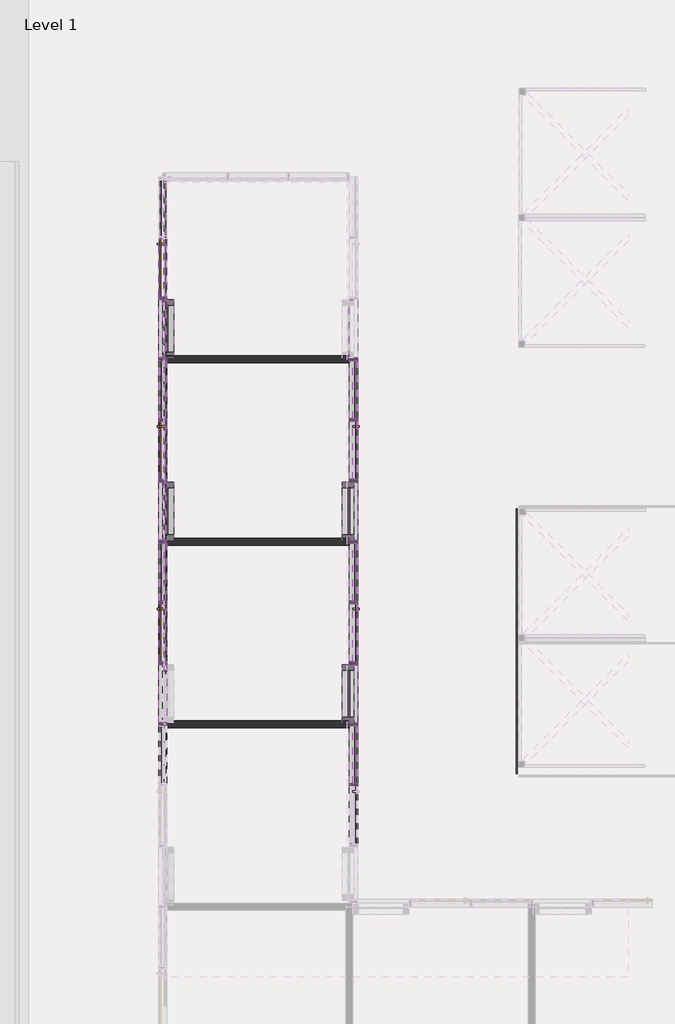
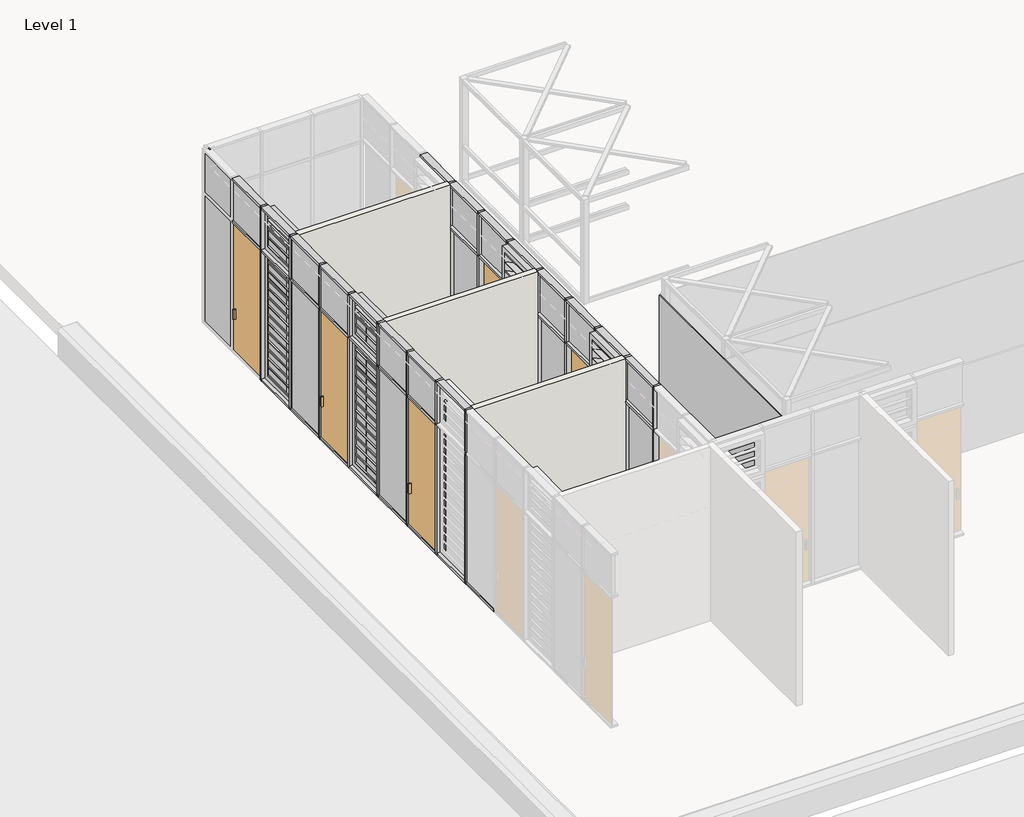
# One storey, part 3 of 32: 79 members, 38 plates, 5 doors, 3 walls.
"""IFC4 building model written with IfcOpenShell, lengths in millimetres."""

from ifc_helpers import new_model, si_unit, frame, origin, place, context, project, spatial, polyline, outline, extrude, transform, mapped, element, save
from components import curtain_wall_door_single_glass_nz_curtain_wall_door_single_2bf20aac, curtain_wall_door_single_glass_nz_curtain_wall_door_single_ff8afd41, rectangular_mullion_50x150mm_c4504768, rectangular_mullion_50x150mm_6c7cb899, rectangular_mullion_50x150mm_b0af8bb0, rectangular_mullion_50x150mm_bbc1c4ea, rectangular_mullion_50x150mm_1a36453b, rectangular_mullion_50x150mm_0d540e17, rectangular_mullion_50x150mm_108cdc6f, curtain_wall_panel_louver_20805_curtain_wall_panel_louver_4af505d4, curtain_wall_panel_louver_20805_curtain_wall_panel_louver_14332c5b, curtain_wall_panel_glass_louver_20805_curtain_wall_panel_036772b2, curtain_wall_panel_glass_louver_20805_curtain_wall_panel_0f8e40a1, system_panel_glazed_c6855d5e, system_panel_glazed_a80c9663, system_panel_glazed_3e853062, system_panel_glazed_a5e8ce8b, system_panel_glazed_53fe5bbb, system_panel_glazed_bed50b64, system_panel_glazed_8b446c0b, system_panel_glazed_822149c0, system_panel_solid_585523e5, system_panel_solid_10c0fb46, system_panel_solid_2b2d5e45

model = new_model("IFC4")

# Units and contexts
model_context = context("Model", 3, world=origin())
ifc_project = project(units=[si_unit("LENGTHUNIT", "METRE", prefix="MILLI")], contexts=[model_context])

# Site, building, storey
site = spatial("IfcSite", under=ifc_project)
building = spatial("IfcBuilding", under=site)
storey = spatial("IfcBuildingStorey", under=building, Name="Level 1", Elevation=2800.0)

# Doors
placement = place(None, origin())
curtain_wall_door_single_glass_nz_curtain_wall_door_single_shape = curtain_wall_door_single_glass_nz_curtain_wall_door_single_2bf20aac(model_context)
element("IfcDoor", 1, ObjectType="Curtain Wall Door-Single-Glass (NZ) : Curtain Wall Door-Single-Glass (NZ)", at=placement, inside=storey, context=model_context, shape_type="MappedRepresentation", body=[
    mapped(curtain_wall_door_single_glass_nz_curtain_wall_door_single_shape, transform((-83784.8408447, -25055.9199597, 2850.0), x_axis=(0.0, -1.0, 0.0), y_axis=(1.0, 0.0, 0.0), z_axis=(0.0, 0.0, 1.0))),
])
element("IfcDoor", 2, ObjectType="Curtain Wall Door-Single-Glass (NZ) : Curtain Wall Door-Single-Glass (NZ)", at=placement, inside=storey, context=model_context, shape_type="MappedRepresentation", body=[
    mapped(curtain_wall_door_single_glass_nz_curtain_wall_door_single_shape, transform((-83784.8408447, -21755.9199596, 2850.0), x_axis=(0.0, -1.0, 0.0), y_axis=(1.0, 0.0, 0.0), z_axis=(0.0, 0.0, 1.0))),
])
curtain_wall_door_single_glass_nz_curtain_wall_door_single_2_shape = curtain_wall_door_single_glass_nz_curtain_wall_door_single_ff8afd41(model_context)
element("IfcDoor", 3, ObjectType="Curtain Wall Door-Single-Glass (NZ) : Curtain Wall Door-Single-Glass (NZ)", at=placement, inside=storey, context=model_context, shape_type="MappedRepresentation", body=[
    mapped(curtain_wall_door_single_glass_nz_curtain_wall_door_single_2_shape, transform((-87234.8408447, -25055.9199597, 2850.0), x_axis=(0.0, -1.0, 0.0), y_axis=(1.0, 0.0, 0.0), z_axis=(0.0, 0.0, 1.0))),
])
element("IfcDoor", 4, ObjectType="Curtain Wall Door-Single-Glass (NZ) : Curtain Wall Door-Single-Glass (NZ)", at=placement, inside=storey, context=model_context, shape_type="MappedRepresentation", body=[
    mapped(curtain_wall_door_single_glass_nz_curtain_wall_door_single_2_shape, transform((-87234.8408447, -21755.9199596, 2850.0), x_axis=(0.0, -1.0, 0.0), y_axis=(1.0, 0.0, 0.0), z_axis=(0.0, 0.0, 1.0))),
])
element("IfcDoor", 5, ObjectType="Curtain Wall Door-Single-Glass (NZ) : Curtain Wall Door-Single-Glass (NZ)", at=placement, inside=storey, context=model_context, shape_type="MappedRepresentation", body=[
    mapped(curtain_wall_door_single_glass_nz_curtain_wall_door_single_2_shape, transform((-87234.8408447, -18455.9199596, 2850.0), x_axis=(0.0, -1.0, 0.0), y_axis=(1.0, 0.0, 0.0), z_axis=(0.0, 0.0, 1.0))),
])

# Members
rectangular_mullion_50x150mm_shape = rectangular_mullion_50x150mm_c4504768(model_context)
element("IfcMember", 6, ObjectType="Rectangular Mullion : 50x150mm", at=placement, inside=storey, context=model_context, shape_type="MappedRepresentation", body=[
    mapped(rectangular_mullion_50x150mm_shape, transform((-83784.8408447, -24480.9199597, 5800.0), x_axis=(0.0, 0.0, 1.0), y_axis=(-1.0, 0.0, 0.0), z_axis=(0.0, -1.0, 0.0))),
])
element("IfcMember", 7, ObjectType="Rectangular Mullion : 50x150mm", at=placement, inside=storey, context=model_context, shape_type="MappedRepresentation", body=[
    mapped(rectangular_mullion_50x150mm_shape, transform((-83784.8408447, -27780.9199596, 5800.0), x_axis=(0.0, 0.0, 1.0), y_axis=(-1.0, 0.0, 0.0), z_axis=(0.0, -1.0, 0.0))),
])
element("IfcMember", 8, ObjectType="Rectangular Mullion : 50x150mm", at=placement, inside=storey, context=model_context, shape_type="MappedRepresentation", body=[
    mapped(rectangular_mullion_50x150mm_shape, transform((-83784.8408447, -26680.9199596, 5800.0), x_axis=(0.0, 0.0, 1.0), y_axis=(-1.0, 0.0, 0.0), z_axis=(0.0, -1.0, 0.0))),
])
element("IfcMember", 9, ObjectType="Rectangular Mullion : 50x150mm", at=placement, inside=storey, context=model_context, shape_type="MappedRepresentation", body=[
    mapped(rectangular_mullion_50x150mm_shape, transform((-83784.8408447, -25580.9199596, 5800.0), x_axis=(0.0, 0.0, 1.0), y_axis=(-1.0, 0.0, 0.0), z_axis=(0.0, -1.0, 0.0))),
])
element("IfcMember", 10, ObjectType="Rectangular Mullion : 50x150mm", at=placement, inside=storey, context=model_context, shape_type="MappedRepresentation", body=[
    mapped(rectangular_mullion_50x150mm_shape, transform((-83784.8408447, -23380.9199596, 5800.0), x_axis=(0.0, 0.0, 1.0), y_axis=(-1.0, 0.0, 0.0), z_axis=(0.0, -1.0, 0.0))),
])
element("IfcMember", 11, ObjectType="Rectangular Mullion : 50x150mm", at=placement, inside=storey, context=model_context, shape_type="MappedRepresentation", body=[
    mapped(rectangular_mullion_50x150mm_shape, transform((-83784.8408447, -22280.9199596, 5800.0), x_axis=(0.0, 0.0, 1.0), y_axis=(-1.0, 0.0, 0.0), z_axis=(0.0, -1.0, 0.0))),
])
element("IfcMember", 12, ObjectType="Rectangular Mullion : 50x150mm", at=placement, inside=storey, context=model_context, shape_type="MappedRepresentation", body=[
    mapped(rectangular_mullion_50x150mm_shape, transform((-83784.8408447, -20080.9199596, 5800.0), x_axis=(0.0, 0.0, 1.0), y_axis=(-1.0, 0.0, 0.0), z_axis=(0.0, -1.0, 0.0))),
])
element("IfcMember", 13, ObjectType="Rectangular Mullion : 50x150mm", at=placement, inside=storey, context=model_context, shape_type="MappedRepresentation", body=[
    mapped(rectangular_mullion_50x150mm_shape, transform((-83784.8408447, -21180.9199596, 5800.0), x_axis=(0.0, 0.0, 1.0), y_axis=(-1.0, 0.0, 0.0), z_axis=(0.0, -1.0, 0.0))),
])
rectangular_mullion_50x150mm_2_shape = rectangular_mullion_50x150mm_6c7cb899(model_context)
element("IfcMember", 14, ObjectType="Rectangular Mullion : 50x150mm", at=placement, inside=storey, context=model_context, shape_type="MappedRepresentation", body=[
    mapped(rectangular_mullion_50x150mm_2_shape, transform((-83784.8408447, -24505.9199597, 2800.0), x_axis=(0.0, -1.0, 0.0), y_axis=(-1.0, 0.0, 0.0), z_axis=(0.0, 0.0, -1.0))),
])
element("IfcMember", 15, ObjectType="Rectangular Mullion : 50x150mm", at=placement, inside=storey, context=model_context, shape_type="MappedRepresentation", body=[
    mapped(rectangular_mullion_50x150mm_2_shape, transform((-83784.8408447, -25605.9199596, 2800.0), x_axis=(0.0, -1.0, 0.0), y_axis=(-1.0, 0.0, 0.0), z_axis=(0.0, 0.0, -1.0))),
])
element("IfcMember", 16, ObjectType="Rectangular Mullion : 50x150mm", at=placement, inside=storey, context=model_context, shape_type="MappedRepresentation", body=[
    mapped(rectangular_mullion_50x150mm_2_shape, transform((-83784.8408447, -23405.9199596, 2800.0), x_axis=(0.0, -1.0, 0.0), y_axis=(-1.0, 0.0, 0.0), z_axis=(0.0, 0.0, -1.0))),
])
element("IfcMember", 17, ObjectType="Rectangular Mullion : 50x150mm", at=placement, inside=storey, context=model_context, shape_type="MappedRepresentation", body=[
    mapped(rectangular_mullion_50x150mm_2_shape, transform((-83784.8408447, -26705.9199596, 2800.0), x_axis=(0.0, -1.0, 0.0), y_axis=(-1.0, 0.0, 0.0), z_axis=(0.0, 0.0, -1.0))),
])
element("IfcMember", 18, ObjectType="Rectangular Mullion : 50x150mm", at=placement, inside=storey, context=model_context, shape_type="MappedRepresentation", body=[
    mapped(rectangular_mullion_50x150mm_2_shape, transform((-83784.8408447, -22305.9199596, 2800.0), x_axis=(0.0, -1.0, 0.0), y_axis=(-1.0, 0.0, 0.0), z_axis=(0.0, 0.0, -1.0))),
])
element("IfcMember", 19, ObjectType="Rectangular Mullion : 50x150mm", at=placement, inside=storey, context=model_context, shape_type="MappedRepresentation", body=[
    mapped(rectangular_mullion_50x150mm_2_shape, transform((-83784.8408447, -21205.9199596, 2800.0), x_axis=(0.0, -1.0, 0.0), y_axis=(-1.0, 0.0, 0.0), z_axis=(0.0, 0.0, -1.0))),
])
element("IfcMember", 20, ObjectType="Rectangular Mullion : 50x150mm", at=placement, inside=storey, context=model_context, shape_type="MappedRepresentation", body=[
    mapped(rectangular_mullion_50x150mm_2_shape, transform((-83784.8408447, -20105.9199596, 2800.0), x_axis=(0.0, -1.0, 0.0), y_axis=(-1.0, 0.0, 0.0), z_axis=(0.0, 0.0, -1.0))),
])
element("IfcMember", 21, ObjectType="Rectangular Mullion : 50x150mm", at=placement, inside=storey, context=model_context, shape_type="MappedRepresentation", body=[
    mapped(rectangular_mullion_50x150mm_2_shape, transform((-83784.8408447, -27805.9199596, 2800.0), x_axis=(0.0, -1.0, 0.0), y_axis=(-1.0, 0.0, 0.0), z_axis=(0.0, 0.0, -1.0))),
])
rectangular_mullion_50x150mm_3_shape = rectangular_mullion_50x150mm_b0af8bb0(model_context)
element("IfcMember", 22, ObjectType="Rectangular Mullion : 50x150mm", at=placement, inside=storey, context=model_context, shape_type="MappedRepresentation", body=[
    mapped(rectangular_mullion_50x150mm_3_shape, transform((-83784.8408447, -23430.9199596, 2800.0), x_axis=(0.0, 0.0, -1.0), y_axis=(-1.0, 0.0, 0.0), z_axis=(0.0, 1.0, 0.0))),
])
element("IfcMember", 23, ObjectType="Rectangular Mullion : 50x150mm", at=placement, inside=storey, context=model_context, shape_type="MappedRepresentation", body=[
    mapped(rectangular_mullion_50x150mm_3_shape, transform((-83784.8408447, -26730.9199596, 2800.0), x_axis=(0.0, 0.0, -1.0), y_axis=(-1.0, 0.0, 0.0), z_axis=(0.0, 1.0, 0.0))),
])
element("IfcMember", 24, ObjectType="Rectangular Mullion : 50x150mm", at=placement, inside=storey, context=model_context, shape_type="MappedRepresentation", body=[
    mapped(rectangular_mullion_50x150mm_3_shape, transform((-83784.8408447, -25630.9199596, 2800.0), x_axis=(0.0, 0.0, -1.0), y_axis=(-1.0, 0.0, 0.0), z_axis=(0.0, 1.0, 0.0))),
])
element("IfcMember", 25, ObjectType="Rectangular Mullion : 50x150mm", at=placement, inside=storey, context=model_context, shape_type="MappedRepresentation", body=[
    mapped(rectangular_mullion_50x150mm_3_shape, transform((-83784.8408447, -24530.9199597, 2800.0), x_axis=(0.0, 0.0, -1.0), y_axis=(-1.0, 0.0, 0.0), z_axis=(0.0, 1.0, 0.0))),
])
element("IfcMember", 26, ObjectType="Rectangular Mullion : 50x150mm", at=placement, inside=storey, context=model_context, shape_type="MappedRepresentation", body=[
    mapped(rectangular_mullion_50x150mm_3_shape, transform((-83784.8408447, -22330.9199596, 2800.0), x_axis=(0.0, 0.0, -1.0), y_axis=(-1.0, 0.0, 0.0), z_axis=(0.0, 1.0, 0.0))),
])
element("IfcMember", 27, ObjectType="Rectangular Mullion : 50x150mm", at=placement, inside=storey, context=model_context, shape_type="MappedRepresentation", body=[
    mapped(rectangular_mullion_50x150mm_3_shape, transform((-83784.8408447, -21230.9199596, 2800.0), x_axis=(0.0, 0.0, -1.0), y_axis=(-1.0, 0.0, 0.0), z_axis=(0.0, 1.0, 0.0))),
])
element("IfcMember", 28, ObjectType="Rectangular Mullion : 50x150mm", at=placement, inside=storey, context=model_context, shape_type="MappedRepresentation", body=[
    mapped(rectangular_mullion_50x150mm_3_shape, transform((-83784.8408447, -20130.9199596, 2800.0), x_axis=(0.0, 0.0, -1.0), y_axis=(-1.0, 0.0, 0.0), z_axis=(0.0, 1.0, 0.0))),
])
element("IfcMember", 29, ObjectType="Rectangular Mullion : 50x150mm", at=placement, inside=storey, context=model_context, shape_type="MappedRepresentation", body=[
    mapped(rectangular_mullion_50x150mm_3_shape, transform((-83784.8408447, -27830.9199596, 2800.0), x_axis=(0.0, 0.0, -1.0), y_axis=(-1.0, 0.0, 0.0), z_axis=(0.0, 1.0, 0.0))),
])
rectangular_mullion_50x150mm_4_shape = rectangular_mullion_50x150mm_bbc1c4ea(model_context)
element("IfcMember", 30, ObjectType="Rectangular Mullion : 50x150mm", at=placement, inside=storey, context=model_context, shape_type="MappedRepresentation", body=[
    mapped(rectangular_mullion_50x150mm_4_shape, transform((-83784.8408447, -24505.9199597, 5800.0), x_axis=(0.0, -1.0, 0.0), y_axis=(-1.0, 0.0, 0.0), z_axis=(0.0, 0.0, -1.0))),
])
element("IfcMember", 31, ObjectType="Rectangular Mullion : 50x150mm", at=placement, inside=storey, context=model_context, shape_type="MappedRepresentation", body=[
    mapped(rectangular_mullion_50x150mm_4_shape, transform((-83784.8408447, -25605.9199596, 5800.0), x_axis=(0.0, -1.0, 0.0), y_axis=(-1.0, 0.0, 0.0), z_axis=(0.0, 0.0, -1.0))),
])
element("IfcMember", 32, ObjectType="Rectangular Mullion : 50x150mm", at=placement, inside=storey, context=model_context, shape_type="MappedRepresentation", body=[
    mapped(rectangular_mullion_50x150mm_4_shape, transform((-83784.8408447, -23405.9199596, 5800.0), x_axis=(0.0, -1.0, 0.0), y_axis=(-1.0, 0.0, 0.0), z_axis=(0.0, 0.0, -1.0))),
])
element("IfcMember", 33, ObjectType="Rectangular Mullion : 50x150mm", at=placement, inside=storey, context=model_context, shape_type="MappedRepresentation", body=[
    mapped(rectangular_mullion_50x150mm_4_shape, transform((-83784.8408447, -26705.9199596, 5800.0), x_axis=(0.0, -1.0, 0.0), y_axis=(-1.0, 0.0, 0.0), z_axis=(0.0, 0.0, -1.0))),
])
element("IfcMember", 34, ObjectType="Rectangular Mullion : 50x150mm", at=placement, inside=storey, context=model_context, shape_type="MappedRepresentation", body=[
    mapped(rectangular_mullion_50x150mm_4_shape, transform((-83784.8408447, -22305.9199596, 5800.0), x_axis=(0.0, -1.0, 0.0), y_axis=(-1.0, 0.0, 0.0), z_axis=(0.0, 0.0, -1.0))),
])
element("IfcMember", 35, ObjectType="Rectangular Mullion : 50x150mm", at=placement, inside=storey, context=model_context, shape_type="MappedRepresentation", body=[
    mapped(rectangular_mullion_50x150mm_4_shape, transform((-83784.8408447, -21205.9199596, 5800.0), x_axis=(0.0, -1.0, 0.0), y_axis=(-1.0, 0.0, 0.0), z_axis=(0.0, 0.0, -1.0))),
])
element("IfcMember", 36, ObjectType="Rectangular Mullion : 50x150mm", at=placement, inside=storey, context=model_context, shape_type="MappedRepresentation", body=[
    mapped(rectangular_mullion_50x150mm_4_shape, transform((-83784.8408447, -20105.9199596, 5800.0), x_axis=(0.0, -1.0, 0.0), y_axis=(-1.0, 0.0, 0.0), z_axis=(0.0, 0.0, -1.0))),
])
element("IfcMember", 37, ObjectType="Rectangular Mullion : 50x150mm", at=placement, inside=storey, context=model_context, shape_type="MappedRepresentation", body=[
    mapped(rectangular_mullion_50x150mm_4_shape, transform((-83784.8408447, -27805.9199596, 5800.0), x_axis=(0.0, -1.0, 0.0), y_axis=(-1.0, 0.0, 0.0), z_axis=(0.0, 0.0, -1.0))),
])
rectangular_mullion_50x150mm_5_shape = rectangular_mullion_50x150mm_1a36453b(model_context)
element("IfcMember", 38, ObjectType="Rectangular Mullion : 50x150mm", at=placement, inside=storey, context=model_context, shape_type="MappedRepresentation", body=[
    mapped(rectangular_mullion_50x150mm_5_shape, transform((-83784.8408447, -23380.9199596, 6800.0), x_axis=(0.0, 0.0, 1.0), y_axis=(-1.0, 0.0, 0.0), z_axis=(0.0, -1.0, 0.0))),
])
element("IfcMember", 39, ObjectType="Rectangular Mullion : 50x150mm", at=placement, inside=storey, context=model_context, shape_type="MappedRepresentation", body=[
    mapped(rectangular_mullion_50x150mm_5_shape, transform((-83784.8408447, -26680.9199596, 6800.0), x_axis=(0.0, 0.0, 1.0), y_axis=(-1.0, 0.0, 0.0), z_axis=(0.0, -1.0, 0.0))),
])
element("IfcMember", 40, ObjectType="Rectangular Mullion : 50x150mm", at=placement, inside=storey, context=model_context, shape_type="MappedRepresentation", body=[
    mapped(rectangular_mullion_50x150mm_5_shape, transform((-83784.8408447, -25580.9199596, 6800.0), x_axis=(0.0, 0.0, 1.0), y_axis=(-1.0, 0.0, 0.0), z_axis=(0.0, -1.0, 0.0))),
])
element("IfcMember", 41, ObjectType="Rectangular Mullion : 50x150mm", at=placement, inside=storey, context=model_context, shape_type="MappedRepresentation", body=[
    mapped(rectangular_mullion_50x150mm_5_shape, transform((-83784.8408447, -24480.9199597, 6800.0), x_axis=(0.0, 0.0, 1.0), y_axis=(-1.0, 0.0, 0.0), z_axis=(0.0, -1.0, 0.0))),
])
element("IfcMember", 42, ObjectType="Rectangular Mullion : 50x150mm", at=placement, inside=storey, context=model_context, shape_type="MappedRepresentation", body=[
    mapped(rectangular_mullion_50x150mm_5_shape, transform((-83784.8408447, -22280.9199596, 6800.0), x_axis=(0.0, 0.0, 1.0), y_axis=(-1.0, 0.0, 0.0), z_axis=(0.0, -1.0, 0.0))),
])
element("IfcMember", 43, ObjectType="Rectangular Mullion : 50x150mm", at=placement, inside=storey, context=model_context, shape_type="MappedRepresentation", body=[
    mapped(rectangular_mullion_50x150mm_5_shape, transform((-83784.8408447, -21180.9199596, 6800.0), x_axis=(0.0, 0.0, 1.0), y_axis=(-1.0, 0.0, 0.0), z_axis=(0.0, -1.0, 0.0))),
])
element("IfcMember", 44, ObjectType="Rectangular Mullion : 50x150mm", at=placement, inside=storey, context=model_context, shape_type="MappedRepresentation", body=[
    mapped(rectangular_mullion_50x150mm_5_shape, transform((-83784.8408447, -20080.9199596, 6800.0), x_axis=(0.0, 0.0, 1.0), y_axis=(-1.0, 0.0, 0.0), z_axis=(0.0, -1.0, 0.0))),
])
element("IfcMember", 45, ObjectType="Rectangular Mullion : 50x150mm", at=placement, inside=storey, context=model_context, shape_type="MappedRepresentation", body=[
    mapped(rectangular_mullion_50x150mm_5_shape, transform((-83784.8408447, -27780.9199596, 6800.0), x_axis=(0.0, 0.0, 1.0), y_axis=(-1.0, 0.0, 0.0), z_axis=(0.0, -1.0, 0.0))),
])
element("IfcMember", 46, ObjectType="Rectangular Mullion : 50x150mm", at=placement, inside=storey, context=model_context, shape_type="MappedRepresentation", body=[
    mapped(rectangular_mullion_50x150mm_4_shape, transform((-87234.8408447, -24505.9199597, 5800.0), x_axis=(0.0, -1.0, 0.0), y_axis=(-1.0, 0.0, 0.0), z_axis=(0.0, 0.0, -1.0))),
])
element("IfcMember", 47, ObjectType="Rectangular Mullion : 50x150mm", at=placement, inside=storey, context=model_context, shape_type="MappedRepresentation", body=[
    mapped(rectangular_mullion_50x150mm_4_shape, transform((-87234.8408447, -25605.9199596, 5800.0), x_axis=(0.0, -1.0, 0.0), y_axis=(-1.0, 0.0, 0.0), z_axis=(0.0, 0.0, -1.0))),
])
element("IfcMember", 48, ObjectType="Rectangular Mullion : 50x150mm", at=placement, inside=storey, context=model_context, shape_type="MappedRepresentation", body=[
    mapped(rectangular_mullion_50x150mm_4_shape, transform((-87234.8408447, -23405.9199596, 5800.0), x_axis=(0.0, -1.0, 0.0), y_axis=(-1.0, 0.0, 0.0), z_axis=(0.0, 0.0, -1.0))),
])
element("IfcMember", 49, ObjectType="Rectangular Mullion : 50x150mm", at=placement, inside=storey, context=model_context, shape_type="MappedRepresentation", body=[
    mapped(rectangular_mullion_50x150mm_4_shape, transform((-87234.8408447, -26705.9199596, 5800.0), x_axis=(0.0, -1.0, 0.0), y_axis=(-1.0, 0.0, 0.0), z_axis=(0.0, 0.0, -1.0))),
])
element("IfcMember", 50, ObjectType="Rectangular Mullion : 50x150mm", at=placement, inside=storey, context=model_context, shape_type="MappedRepresentation", body=[
    mapped(rectangular_mullion_50x150mm_4_shape, transform((-87234.8408447, -22305.9199596, 5800.0), x_axis=(0.0, -1.0, 0.0), y_axis=(-1.0, 0.0, 0.0), z_axis=(0.0, 0.0, -1.0))),
])
element("IfcMember", 51, ObjectType="Rectangular Mullion : 50x150mm", at=placement, inside=storey, context=model_context, shape_type="MappedRepresentation", body=[
    mapped(rectangular_mullion_50x150mm_4_shape, transform((-87234.8408447, -21205.9199596, 5800.0), x_axis=(0.0, -1.0, 0.0), y_axis=(-1.0, 0.0, 0.0), z_axis=(0.0, 0.0, -1.0))),
])
element("IfcMember", 52, ObjectType="Rectangular Mullion : 50x150mm", at=placement, inside=storey, context=model_context, shape_type="MappedRepresentation", body=[
    mapped(rectangular_mullion_50x150mm_4_shape, transform((-87234.8408447, -20105.9199596, 5800.0), x_axis=(0.0, -1.0, 0.0), y_axis=(-1.0, 0.0, 0.0), z_axis=(0.0, 0.0, -1.0))),
])
element("IfcMember", 53, ObjectType="Rectangular Mullion : 50x150mm", at=placement, inside=storey, context=model_context, shape_type="MappedRepresentation", body=[
    mapped(rectangular_mullion_50x150mm_4_shape, transform((-87234.8408447, -19005.9199596, 5800.0), x_axis=(0.0, -1.0, 0.0), y_axis=(-1.0, 0.0, 0.0), z_axis=(0.0, 0.0, -1.0))),
])
element("IfcMember", 54, ObjectType="Rectangular Mullion : 50x150mm", at=placement, inside=storey, context=model_context, shape_type="MappedRepresentation", body=[
    mapped(rectangular_mullion_50x150mm_2_shape, transform((-87234.8408447, -24505.9199597, 2800.0), x_axis=(0.0, -1.0, 0.0), y_axis=(-1.0, 0.0, 0.0), z_axis=(0.0, 0.0, -1.0))),
])
element("IfcMember", 55, ObjectType="Rectangular Mullion : 50x150mm", at=placement, inside=storey, context=model_context, shape_type="MappedRepresentation", body=[
    mapped(rectangular_mullion_50x150mm_2_shape, transform((-87234.8408447, -25605.9199596, 2800.0), x_axis=(0.0, -1.0, 0.0), y_axis=(-1.0, 0.0, 0.0), z_axis=(0.0, 0.0, -1.0))),
])
element("IfcMember", 56, ObjectType="Rectangular Mullion : 50x150mm", at=placement, inside=storey, context=model_context, shape_type="MappedRepresentation", body=[
    mapped(rectangular_mullion_50x150mm_2_shape, transform((-87234.8408447, -23405.9199596, 2800.0), x_axis=(0.0, -1.0, 0.0), y_axis=(-1.0, 0.0, 0.0), z_axis=(0.0, 0.0, -1.0))),
])
element("IfcMember", 57, ObjectType="Rectangular Mullion : 50x150mm", at=placement, inside=storey, context=model_context, shape_type="MappedRepresentation", body=[
    mapped(rectangular_mullion_50x150mm_2_shape, transform((-87234.8408447, -26705.9199596, 2800.0), x_axis=(0.0, -1.0, 0.0), y_axis=(-1.0, 0.0, 0.0), z_axis=(0.0, 0.0, -1.0))),
])
element("IfcMember", 58, ObjectType="Rectangular Mullion : 50x150mm", at=placement, inside=storey, context=model_context, shape_type="MappedRepresentation", body=[
    mapped(rectangular_mullion_50x150mm_2_shape, transform((-87234.8408447, -22305.9199596, 2800.0), x_axis=(0.0, -1.0, 0.0), y_axis=(-1.0, 0.0, 0.0), z_axis=(0.0, 0.0, -1.0))),
])
element("IfcMember", 59, ObjectType="Rectangular Mullion : 50x150mm", at=placement, inside=storey, context=model_context, shape_type="MappedRepresentation", body=[
    mapped(rectangular_mullion_50x150mm_2_shape, transform((-87234.8408447, -21205.9199596, 2800.0), x_axis=(0.0, -1.0, 0.0), y_axis=(-1.0, 0.0, 0.0), z_axis=(0.0, 0.0, -1.0))),
])
element("IfcMember", 60, ObjectType="Rectangular Mullion : 50x150mm", at=placement, inside=storey, context=model_context, shape_type="MappedRepresentation", body=[
    mapped(rectangular_mullion_50x150mm_2_shape, transform((-87234.8408447, -20105.9199596, 2800.0), x_axis=(0.0, -1.0, 0.0), y_axis=(-1.0, 0.0, 0.0), z_axis=(0.0, 0.0, -1.0))),
])
element("IfcMember", 61, ObjectType="Rectangular Mullion : 50x150mm", at=placement, inside=storey, context=model_context, shape_type="MappedRepresentation", body=[
    mapped(rectangular_mullion_50x150mm_2_shape, transform((-87234.8408447, -19005.9199596, 2800.0), x_axis=(0.0, -1.0, 0.0), y_axis=(-1.0, 0.0, 0.0), z_axis=(0.0, 0.0, -1.0))),
])
rectangular_mullion_50x150mm_6_shape = rectangular_mullion_50x150mm_0d540e17(model_context)
element("IfcMember", 62, ObjectType="Rectangular Mullion : 50x150mm", at=placement, inside=storey, context=model_context, shape_type="MappedRepresentation", body=[
    mapped(rectangular_mullion_50x150mm_6_shape, transform((-87234.8408447, -24480.9199597, 5800.0), x_axis=(0.0, 0.0, 1.0), y_axis=(-1.0, 0.0, 0.0), z_axis=(0.0, -1.0, 0.0))),
])
element("IfcMember", 63, ObjectType="Rectangular Mullion : 50x150mm", at=placement, inside=storey, context=model_context, shape_type="MappedRepresentation", body=[
    mapped(rectangular_mullion_50x150mm_6_shape, transform((-87234.8408447, -25580.9199596, 5800.0), x_axis=(0.0, 0.0, 1.0), y_axis=(-1.0, 0.0, 0.0), z_axis=(0.0, -1.0, 0.0))),
])
element("IfcMember", 64, ObjectType="Rectangular Mullion : 50x150mm", at=placement, inside=storey, context=model_context, shape_type="MappedRepresentation", body=[
    mapped(rectangular_mullion_50x150mm_6_shape, transform((-87234.8408447, -23380.9199596, 5800.0), x_axis=(0.0, 0.0, 1.0), y_axis=(-1.0, 0.0, 0.0), z_axis=(0.0, -1.0, 0.0))),
])
element("IfcMember", 65, ObjectType="Rectangular Mullion : 50x150mm", at=placement, inside=storey, context=model_context, shape_type="MappedRepresentation", body=[
    mapped(rectangular_mullion_50x150mm_6_shape, transform((-87234.8408447, -22280.9199596, 5800.0), x_axis=(0.0, 0.0, 1.0), y_axis=(-1.0, 0.0, 0.0), z_axis=(0.0, -1.0, 0.0))),
])
element("IfcMember", 66, ObjectType="Rectangular Mullion : 50x150mm", at=placement, inside=storey, context=model_context, shape_type="MappedRepresentation", body=[
    mapped(rectangular_mullion_50x150mm_6_shape, transform((-87234.8408447, -20080.9199596, 5800.0), x_axis=(0.0, 0.0, 1.0), y_axis=(-1.0, 0.0, 0.0), z_axis=(0.0, -1.0, 0.0))),
])
element("IfcMember", 67, ObjectType="Rectangular Mullion : 50x150mm", at=placement, inside=storey, context=model_context, shape_type="MappedRepresentation", body=[
    mapped(rectangular_mullion_50x150mm_6_shape, transform((-87234.8408447, -18980.9199596, 5800.0), x_axis=(0.0, 0.0, 1.0), y_axis=(-1.0, 0.0, 0.0), z_axis=(0.0, -1.0, 0.0))),
])
element("IfcMember", 68, ObjectType="Rectangular Mullion : 50x150mm", at=placement, inside=storey, context=model_context, shape_type="MappedRepresentation", body=[
    mapped(rectangular_mullion_50x150mm_6_shape, transform((-87234.8408447, -21180.9199596, 5800.0), x_axis=(0.0, 0.0, 1.0), y_axis=(-1.0, 0.0, 0.0), z_axis=(0.0, -1.0, 0.0))),
])
rectangular_mullion_50x150mm_7_shape = rectangular_mullion_50x150mm_108cdc6f(model_context)
element("IfcMember", 69, ObjectType="Rectangular Mullion : 50x150mm", at=placement, inside=storey, context=model_context, shape_type="MappedRepresentation", body=[
    mapped(rectangular_mullion_50x150mm_7_shape, transform((-87234.8408447, -23430.9199596, 2800.0), x_axis=(0.0, 0.0, -1.0), y_axis=(-1.0, 0.0, 0.0), z_axis=(0.0, 1.0, 0.0))),
])
element("IfcMember", 70, ObjectType="Rectangular Mullion : 50x150mm", at=placement, inside=storey, context=model_context, shape_type="MappedRepresentation", body=[
    mapped(rectangular_mullion_50x150mm_7_shape, transform((-87234.8408447, -26730.9199596, 2800.0), x_axis=(0.0, 0.0, -1.0), y_axis=(-1.0, 0.0, 0.0), z_axis=(0.0, 1.0, 0.0))),
])
element("IfcMember", 71, ObjectType="Rectangular Mullion : 50x150mm", at=placement, inside=storey, context=model_context, shape_type="MappedRepresentation", body=[
    mapped(rectangular_mullion_50x150mm_7_shape, transform((-87234.8408447, -25630.9199596, 2800.0), x_axis=(0.0, 0.0, -1.0), y_axis=(-1.0, 0.0, 0.0), z_axis=(0.0, 1.0, 0.0))),
])
element("IfcMember", 72, ObjectType="Rectangular Mullion : 50x150mm", at=placement, inside=storey, context=model_context, shape_type="MappedRepresentation", body=[
    mapped(rectangular_mullion_50x150mm_7_shape, transform((-87234.8408447, -24530.9199597, 2800.0), x_axis=(0.0, 0.0, -1.0), y_axis=(-1.0, 0.0, 0.0), z_axis=(0.0, 1.0, 0.0))),
])
element("IfcMember", 73, ObjectType="Rectangular Mullion : 50x150mm", at=placement, inside=storey, context=model_context, shape_type="MappedRepresentation", body=[
    mapped(rectangular_mullion_50x150mm_7_shape, transform((-87234.8408447, -22330.9199596, 2800.0), x_axis=(0.0, 0.0, -1.0), y_axis=(-1.0, 0.0, 0.0), z_axis=(0.0, 1.0, 0.0))),
])
element("IfcMember", 74, ObjectType="Rectangular Mullion : 50x150mm", at=placement, inside=storey, context=model_context, shape_type="MappedRepresentation", body=[
    mapped(rectangular_mullion_50x150mm_7_shape, transform((-87234.8408447, -21230.9199596, 2800.0), x_axis=(0.0, 0.0, -1.0), y_axis=(-1.0, 0.0, 0.0), z_axis=(0.0, 1.0, 0.0))),
])
element("IfcMember", 75, ObjectType="Rectangular Mullion : 50x150mm", at=placement, inside=storey, context=model_context, shape_type="MappedRepresentation", body=[
    mapped(rectangular_mullion_50x150mm_7_shape, transform((-87234.8408447, -19030.9199596, 2800.0), x_axis=(0.0, 0.0, -1.0), y_axis=(-1.0, 0.0, 0.0), z_axis=(0.0, 1.0, 0.0))),
])
element("IfcMember", 76, ObjectType="Rectangular Mullion : 50x150mm", at=placement, inside=storey, context=model_context, shape_type="MappedRepresentation", body=[
    mapped(rectangular_mullion_50x150mm_7_shape, transform((-87234.8408447, -20130.9199596, 2800.0), x_axis=(0.0, 0.0, -1.0), y_axis=(-1.0, 0.0, 0.0), z_axis=(0.0, 1.0, 0.0))),
])
element("IfcMember", 77, ObjectType="Rectangular Mullion : 50x150mm", at=placement, inside=storey, context=model_context, shape_type="MappedRepresentation", body=[
    mapped(rectangular_mullion_50x150mm_5_shape, transform((-87234.8408447, -23380.9199596, 6800.0), x_axis=(0.0, 0.0, 1.0), y_axis=(-1.0, 0.0, 0.0), z_axis=(0.0, -1.0, 0.0))),
])
element("IfcMember", 78, ObjectType="Rectangular Mullion : 50x150mm", at=placement, inside=storey, context=model_context, shape_type="MappedRepresentation", body=[
    mapped(rectangular_mullion_50x150mm_5_shape, transform((-87234.8408447, -26680.9199596, 6800.0), x_axis=(0.0, 0.0, 1.0), y_axis=(-1.0, 0.0, 0.0), z_axis=(0.0, -1.0, 0.0))),
])
element("IfcMember", 79, ObjectType="Rectangular Mullion : 50x150mm", at=placement, inside=storey, context=model_context, shape_type="MappedRepresentation", body=[
    mapped(rectangular_mullion_50x150mm_5_shape, transform((-87234.8408447, -25580.9199596, 6800.0), x_axis=(0.0, 0.0, 1.0), y_axis=(-1.0, 0.0, 0.0), z_axis=(0.0, -1.0, 0.0))),
])
element("IfcMember", 80, ObjectType="Rectangular Mullion : 50x150mm", at=placement, inside=storey, context=model_context, shape_type="MappedRepresentation", body=[
    mapped(rectangular_mullion_50x150mm_5_shape, transform((-87234.8408447, -24480.9199597, 6800.0), x_axis=(0.0, 0.0, 1.0), y_axis=(-1.0, 0.0, 0.0), z_axis=(0.0, -1.0, 0.0))),
])
element("IfcMember", 81, ObjectType="Rectangular Mullion : 50x150mm", at=placement, inside=storey, context=model_context, shape_type="MappedRepresentation", body=[
    mapped(rectangular_mullion_50x150mm_5_shape, transform((-87234.8408447, -22280.9199596, 6800.0), x_axis=(0.0, 0.0, 1.0), y_axis=(-1.0, 0.0, 0.0), z_axis=(0.0, -1.0, 0.0))),
])
element("IfcMember", 82, ObjectType="Rectangular Mullion : 50x150mm", at=placement, inside=storey, context=model_context, shape_type="MappedRepresentation", body=[
    mapped(rectangular_mullion_50x150mm_5_shape, transform((-87234.8408447, -21180.9199596, 6800.0), x_axis=(0.0, 0.0, 1.0), y_axis=(-1.0, 0.0, 0.0), z_axis=(0.0, -1.0, 0.0))),
])
element("IfcMember", 83, ObjectType="Rectangular Mullion : 50x150mm", at=placement, inside=storey, context=model_context, shape_type="MappedRepresentation", body=[
    mapped(rectangular_mullion_50x150mm_5_shape, transform((-87234.8408447, -18980.9199596, 6800.0), x_axis=(0.0, 0.0, 1.0), y_axis=(-1.0, 0.0, 0.0), z_axis=(0.0, -1.0, 0.0))),
])
element("IfcMember", 84, ObjectType="Rectangular Mullion : 50x150mm", at=placement, inside=storey, context=model_context, shape_type="MappedRepresentation", body=[
    mapped(rectangular_mullion_50x150mm_5_shape, transform((-87234.8408447, -20080.9199596, 6800.0), x_axis=(0.0, 0.0, 1.0), y_axis=(-1.0, 0.0, 0.0), z_axis=(0.0, -1.0, 0.0))),
])

# Plates
curtain_wall_panel_louver_20805_curtain_wall_panel_louver_shape = curtain_wall_panel_louver_20805_curtain_wall_panel_louver_4af505d4(model_context)
element("IfcPlate", 85, ObjectType="Curtain_wall_panel_-_Louver_20805 : Curtain_wall_panel_-_Louver_20805", at=placement, inside=storey, context=model_context, shape_type="MappedRepresentation", body=[
    mapped(curtain_wall_panel_louver_20805_curtain_wall_panel_louver_shape, transform((-83784.8408447, -26155.9199596, 5825.0), x_axis=(0.0, -1.0, 0.0), y_axis=(1.0, 0.0, 0.0), z_axis=(0.0, 0.0, 1.0))),
])
element("IfcPlate", 86, ObjectType="Curtain_wall_panel_-_Louver_20805 : Curtain_wall_panel_-_Louver_20805", at=placement, inside=storey, context=model_context, shape_type="MappedRepresentation", body=[
    mapped(curtain_wall_panel_louver_20805_curtain_wall_panel_louver_shape, transform((-83784.8408447, -22855.9199596, 5825.0), x_axis=(0.0, -1.0, 0.0), y_axis=(1.0, 0.0, 0.0), z_axis=(0.0, 0.0, 1.0))),
])
curtain_wall_panel_louver_20805_curtain_wall_panel_louver_2_shape = curtain_wall_panel_louver_20805_curtain_wall_panel_louver_14332c5b(model_context)
element("IfcPlate", 87, ObjectType="Curtain_wall_panel_-_Louver_20805 : Curtain_wall_panel_-_Louver_20805", at=placement, inside=storey, context=model_context, shape_type="MappedRepresentation", body=[
    mapped(curtain_wall_panel_louver_20805_curtain_wall_panel_louver_2_shape, transform((-87234.8408447, -22855.9199596, 5825.0), x_axis=(0.0, -1.0, 0.0), y_axis=(1.0, 0.0, 0.0), z_axis=(0.0, 0.0, 1.0))),
])
element("IfcPlate", 88, ObjectType="Curtain_wall_panel_-_Louver_20805 : Curtain_wall_panel_-_Louver_20805", at=placement, inside=storey, context=model_context, shape_type="MappedRepresentation", body=[
    mapped(curtain_wall_panel_louver_20805_curtain_wall_panel_louver_2_shape, transform((-87234.8408447, -19555.9199596, 5825.0), x_axis=(0.0, -1.0, 0.0), y_axis=(1.0, 0.0, 0.0), z_axis=(0.0, 0.0, 1.0))),
])
curtain_wall_panel_glass_louver_20805_curtain_wall_panel_shape = curtain_wall_panel_glass_louver_20805_curtain_wall_panel_036772b2(model_context)
element("IfcPlate", 89, ObjectType="Curtain_wall_panel_glass_Louver_20805 : Curtain_wall_panel_glass_Louver_20805", at=placement, inside=storey, context=model_context, shape_type="MappedRepresentation", body=[
    mapped(curtain_wall_panel_glass_louver_20805_curtain_wall_panel_shape, transform((-83784.8408447, -26155.9199596, 2850.0), x_axis=(0.0, -1.0, 0.0), y_axis=(1.0, 0.0, 0.0), z_axis=(0.0, 0.0, 1.0))),
])
element("IfcPlate", 90, ObjectType="Curtain_wall_panel_glass_Louver_20805 : Curtain_wall_panel_glass_Louver_20805", at=placement, inside=storey, context=model_context, shape_type="MappedRepresentation", body=[
    mapped(curtain_wall_panel_glass_louver_20805_curtain_wall_panel_shape, transform((-83784.8408447, -22855.9199596, 2850.0), x_axis=(0.0, -1.0, 0.0), y_axis=(1.0, 0.0, 0.0), z_axis=(0.0, 0.0, 1.0))),
])
curtain_wall_panel_glass_louver_20805_curtain_wall_panel_2_shape = curtain_wall_panel_glass_louver_20805_curtain_wall_panel_0f8e40a1(model_context)
element("IfcPlate", 91, ObjectType="Curtain_wall_panel_glass_Louver_20805 : Curtain_wall_panel_glass_Louver_20805", at=placement, inside=storey, context=model_context, shape_type="MappedRepresentation", body=[
    mapped(curtain_wall_panel_glass_louver_20805_curtain_wall_panel_2_shape, transform((-87234.8408447, -22855.9199596, 2850.0), x_axis=(0.0, -1.0, 0.0), y_axis=(1.0, 0.0, 0.0), z_axis=(0.0, 0.0, 1.0))),
])
element("IfcPlate", 92, ObjectType="Curtain_wall_panel_glass_Louver_20805 : Curtain_wall_panel_glass_Louver_20805", at=placement, inside=storey, context=model_context, shape_type="MappedRepresentation", body=[
    mapped(curtain_wall_panel_glass_louver_20805_curtain_wall_panel_2_shape, transform((-87234.8408447, -19555.9199596, 2850.0), x_axis=(0.0, -1.0, 0.0), y_axis=(1.0, 0.0, 0.0), z_axis=(0.0, 0.0, 1.0))),
])
system_panel_glazed_shape = system_panel_glazed_c6855d5e(model_context)
element("IfcPlate", 93, ObjectType="System Panel : Glazed", at=placement, inside=storey, context=model_context, shape_type="MappedRepresentation", body=[
    mapped(system_panel_glazed_shape, transform((-87159.8408447, -25055.9199596, 2800.0), x_axis=(0.0, 1.0, 0.0), y_axis=(-1.0, 0.0, 0.0), z_axis=(0.0, 0.0, 1.0))),
])
element("IfcPlate", 94, ObjectType="System Panel : Glazed", at=placement, inside=storey, context=model_context, shape_type="MappedRepresentation", body=[
    mapped(system_panel_glazed_shape, transform((-87159.8408447, -23555.9199597, 2800.0), x_axis=(0.0, 1.0, 0.0), y_axis=(-1.0, 0.0, 0.0), z_axis=(0.0, 0.0, 1.0))),
])
element("IfcPlate", 95, ObjectType="System Panel : Glazed", at=placement, inside=storey, context=model_context, shape_type="MappedRepresentation", body=[
    mapped(system_panel_glazed_shape, transform((-87159.8408447, -22055.9199597, 2800.0), x_axis=(0.0, 1.0, 0.0), y_axis=(-1.0, 0.0, 0.0), z_axis=(0.0, 0.0, 1.0))),
])
element("IfcPlate", 96, ObjectType="System Panel : Glazed", at=placement, inside=storey, context=model_context, shape_type="MappedRepresentation", body=[
    mapped(system_panel_glazed_shape, transform((-87159.8408447, -20555.9199598, 2800.0), x_axis=(0.0, 1.0, 0.0), y_axis=(-1.0, 0.0, 0.0), z_axis=(0.0, 0.0, 1.0))),
])
element("IfcPlate", 97, ObjectType="System Panel : Glazed", at=placement, inside=storey, context=model_context, shape_type="MappedRepresentation", body=[
    mapped(system_panel_glazed_shape, transform((-87159.8408447, -19055.9199599, 2800.0), x_axis=(0.0, 1.0, 0.0), y_axis=(-1.0, 0.0, 0.0), z_axis=(0.0, 0.0, 1.0))),
])
system_panel_glazed_2_shape = system_panel_glazed_a80c9663(model_context)
element("IfcPlate", 98, ObjectType="System Panel : Glazed", at=placement, inside=storey, context=model_context, shape_type="MappedRepresentation", body=[
    mapped(system_panel_glazed_2_shape, transform((-87159.8408447, -25055.9199596, 5200.0), x_axis=(0.0, 1.0, 0.0), y_axis=(-1.0, 0.0, 0.0), z_axis=(0.0, 0.0, 1.0))),
])
element("IfcPlate", 99, ObjectType="System Panel : Glazed", at=placement, inside=storey, context=model_context, shape_type="MappedRepresentation", body=[
    mapped(system_panel_glazed_2_shape, transform((-87159.8408447, -23555.9199597, 5200.0), x_axis=(0.0, 1.0, 0.0), y_axis=(-1.0, 0.0, 0.0), z_axis=(0.0, 0.0, 1.0))),
])
element("IfcPlate", 100, ObjectType="System Panel : Glazed", at=placement, inside=storey, context=model_context, shape_type="MappedRepresentation", body=[
    mapped(system_panel_glazed_2_shape, transform((-87159.8408447, -22055.9199597, 5200.0), x_axis=(0.0, 1.0, 0.0), y_axis=(-1.0, 0.0, 0.0), z_axis=(0.0, 0.0, 1.0))),
])
element("IfcPlate", 101, ObjectType="System Panel : Glazed", at=placement, inside=storey, context=model_context, shape_type="MappedRepresentation", body=[
    mapped(system_panel_glazed_2_shape, transform((-87159.8408447, -20555.9199598, 5200.0), x_axis=(0.0, 1.0, 0.0), y_axis=(-1.0, 0.0, 0.0), z_axis=(0.0, 0.0, 1.0))),
])
element("IfcPlate", 102, ObjectType="System Panel : Glazed", at=placement, inside=storey, context=model_context, shape_type="MappedRepresentation", body=[
    mapped(system_panel_glazed_2_shape, transform((-87159.8408447, -19055.9199599, 5200.0), x_axis=(0.0, 1.0, 0.0), y_axis=(-1.0, 0.0, 0.0), z_axis=(0.0, 0.0, 1.0))),
])
system_panel_glazed_3_shape = system_panel_glazed_3e853062(model_context)
element("IfcPlate", 103, ObjectType="System Panel : Glazed", at=placement, inside=storey, context=model_context, shape_type="MappedRepresentation", body=[
    mapped(system_panel_glazed_3_shape, transform((-80795.3056755, -25205.6175809, 2800.0), x_axis=(0.0, 1.0, 0.0), y_axis=(-1.0, 0.0, 0.0), z_axis=(0.0, 0.0, 1.0))),
])
system_panel_glazed_4_shape = system_panel_glazed_a5e8ce8b(model_context)
element("IfcPlate", 104, ObjectType="System Panel : Glazed", at=placement, inside=storey, context=model_context, shape_type="MappedRepresentation", body=[
    mapped(system_panel_glazed_4_shape, transform((-83784.8408447, -27255.9199596, 2850.0), x_axis=(0.0, -1.0, 0.0), y_axis=(1.0, 0.0, 0.0), z_axis=(0.0, 0.0, 1.0))),
])
element("IfcPlate", 105, ObjectType="System Panel : Glazed", at=placement, inside=storey, context=model_context, shape_type="MappedRepresentation", body=[
    mapped(system_panel_glazed_4_shape, transform((-83784.8408447, -23955.9199597, 2850.0), x_axis=(0.0, -1.0, 0.0), y_axis=(1.0, 0.0, 0.0), z_axis=(0.0, 0.0, 1.0))),
])
element("IfcPlate", 106, ObjectType="System Panel : Glazed", at=placement, inside=storey, context=model_context, shape_type="MappedRepresentation", body=[
    mapped(system_panel_glazed_4_shape, transform((-83784.8408447, -20655.9199596, 2850.0), x_axis=(0.0, -1.0, 0.0), y_axis=(1.0, 0.0, 0.0), z_axis=(0.0, 0.0, 1.0))),
])
system_panel_glazed_5_shape = system_panel_glazed_53fe5bbb(model_context)
element("IfcPlate", 107, ObjectType="System Panel : Glazed", at=placement, inside=storey, context=model_context, shape_type="MappedRepresentation", body=[
    mapped(system_panel_glazed_5_shape, transform((-87234.8408447, -23955.9199597, 2850.0), x_axis=(0.0, -1.0, 0.0), y_axis=(1.0, 0.0, 0.0), z_axis=(0.0, 0.0, 1.0))),
])
element("IfcPlate", 108, ObjectType="System Panel : Glazed", at=placement, inside=storey, context=model_context, shape_type="MappedRepresentation", body=[
    mapped(system_panel_glazed_5_shape, transform((-87234.8408447, -20655.9199596, 2850.0), x_axis=(0.0, -1.0, 0.0), y_axis=(1.0, 0.0, 0.0), z_axis=(0.0, 0.0, 1.0))),
])
system_panel_glazed_6_shape = system_panel_glazed_bed50b64(model_context)
element("IfcPlate", 109, ObjectType="System Panel : Glazed", at=placement, inside=storey, context=model_context, shape_type="MappedRepresentation", body=[
    mapped(system_panel_glazed_6_shape, transform((-87234.8408447, -17368.4199597, 2850.0), x_axis=(0.0, -1.0, 0.0), y_axis=(1.0, 0.0, 0.0), z_axis=(0.0, 0.0, 1.0))),
])
system_panel_glazed_7_shape = system_panel_glazed_8b446c0b(model_context)
element("IfcPlate", 110, ObjectType="System Panel : Glazed", at=placement, inside=storey, context=model_context, shape_type="MappedRepresentation", body=[
    mapped(system_panel_glazed_7_shape, transform((-87159.8408447, -17580.9199598, 2800.0), x_axis=(0.0, 1.0, 0.0), y_axis=(-1.0, 0.0, 0.0), z_axis=(0.0, 0.0, 1.0))),
])
system_panel_glazed_8_shape = system_panel_glazed_822149c0(model_context)
element("IfcPlate", 111, ObjectType="System Panel : Glazed", at=placement, inside=storey, context=model_context, shape_type="MappedRepresentation", body=[
    mapped(system_panel_glazed_8_shape, transform((-87159.8408447, -17580.9199598, 5200.0), x_axis=(0.0, 1.0, 0.0), y_axis=(-1.0, 0.0, 0.0), z_axis=(0.0, 0.0, 1.0))),
])
system_panel_solid_shape = system_panel_solid_585523e5(model_context)
element("IfcPlate", 112, ObjectType="System Panel : Solid", at=placement, inside=storey, context=model_context, shape_type="MappedRepresentation", body=[
    mapped(system_panel_solid_shape, transform((-83784.8408447, -23955.9199597, 5825.0), x_axis=(0.0, -1.0, 0.0), y_axis=(1.0, 0.0, 0.0), z_axis=(0.0, 0.0, 1.0))),
])
element("IfcPlate", 113, ObjectType="System Panel : Solid", at=placement, inside=storey, context=model_context, shape_type="MappedRepresentation", body=[
    mapped(system_panel_solid_shape, transform((-83784.8408447, -25055.9199597, 5825.0), x_axis=(0.0, -1.0, 0.0), y_axis=(1.0, 0.0, 0.0), z_axis=(0.0, 0.0, 1.0))),
])
element("IfcPlate", 114, ObjectType="System Panel : Solid", at=placement, inside=storey, context=model_context, shape_type="MappedRepresentation", body=[
    mapped(system_panel_solid_shape, transform((-83784.8408447, -27255.9199596, 5825.0), x_axis=(0.0, -1.0, 0.0), y_axis=(1.0, 0.0, 0.0), z_axis=(0.0, 0.0, 1.0))),
])
element("IfcPlate", 115, ObjectType="System Panel : Solid", at=placement, inside=storey, context=model_context, shape_type="MappedRepresentation", body=[
    mapped(system_panel_solid_shape, transform((-83784.8408447, -21755.9199596, 5825.0), x_axis=(0.0, -1.0, 0.0), y_axis=(1.0, 0.0, 0.0), z_axis=(0.0, 0.0, 1.0))),
])
element("IfcPlate", 116, ObjectType="System Panel : Solid", at=placement, inside=storey, context=model_context, shape_type="MappedRepresentation", body=[
    mapped(system_panel_solid_shape, transform((-83784.8408447, -20655.9199596, 5825.0), x_axis=(0.0, -1.0, 0.0), y_axis=(1.0, 0.0, 0.0), z_axis=(0.0, 0.0, 1.0))),
])
system_panel_solid_2_shape = system_panel_solid_10c0fb46(model_context)
element("IfcPlate", 117, ObjectType="System Panel : Solid", at=placement, inside=storey, context=model_context, shape_type="MappedRepresentation", body=[
    mapped(system_panel_solid_2_shape, transform((-87234.8408447, -23955.9199597, 5825.0), x_axis=(0.0, -1.0, 0.0), y_axis=(1.0, 0.0, 0.0), z_axis=(0.0, 0.0, 1.0))),
])
element("IfcPlate", 118, ObjectType="System Panel : Solid", at=placement, inside=storey, context=model_context, shape_type="MappedRepresentation", body=[
    mapped(system_panel_solid_2_shape, transform((-87234.8408447, -25055.9199597, 5825.0), x_axis=(0.0, -1.0, 0.0), y_axis=(1.0, 0.0, 0.0), z_axis=(0.0, 0.0, 1.0))),
])
element("IfcPlate", 119, ObjectType="System Panel : Solid", at=placement, inside=storey, context=model_context, shape_type="MappedRepresentation", body=[
    mapped(system_panel_solid_2_shape, transform((-87234.8408447, -21755.9199596, 5825.0), x_axis=(0.0, -1.0, 0.0), y_axis=(1.0, 0.0, 0.0), z_axis=(0.0, 0.0, 1.0))),
])
element("IfcPlate", 120, ObjectType="System Panel : Solid", at=placement, inside=storey, context=model_context, shape_type="MappedRepresentation", body=[
    mapped(system_panel_solid_2_shape, transform((-87234.8408447, -18455.9199596, 5825.0), x_axis=(0.0, -1.0, 0.0), y_axis=(1.0, 0.0, 0.0), z_axis=(0.0, 0.0, 1.0))),
])
element("IfcPlate", 121, ObjectType="System Panel : Solid", at=placement, inside=storey, context=model_context, shape_type="MappedRepresentation", body=[
    mapped(system_panel_solid_2_shape, transform((-87234.8408447, -20655.9199596, 5825.0), x_axis=(0.0, -1.0, 0.0), y_axis=(1.0, 0.0, 0.0), z_axis=(0.0, 0.0, 1.0))),
])
system_panel_solid_3_shape = system_panel_solid_2b2d5e45(model_context)
element("IfcPlate", 122, ObjectType="System Panel : Solid", at=placement, inside=storey, context=model_context, shape_type="MappedRepresentation", body=[
    mapped(system_panel_solid_3_shape, transform((-87234.8408447, -17368.4199597, 5825.0), x_axis=(0.0, -1.0, 0.0), y_axis=(1.0, 0.0, 0.0), z_axis=(0.0, 0.0, 1.0))),
])

# Walls
element("IfcWall", 123, ObjectType="Wall-Partn_12P-100Std-12P", at=placement, inside=storey, context=model_context, shape_type="SweptSolid", body=[
    extrude(outline(polyline([(-87159.8408447, -26643.4199596), (-83859.8408447, -26643.4199596), (-83859.8408447, -26768.4199596), (-87159.8408447, -26768.4199596), (-87159.8408447, -26643.4199596)])), frame((0.0, 0.0, 2800.0), z_axis=(0.0, 0.0, 1.0), x_axis=(1.0, 0.0, 0.0)), (0.0, 0.0, 1.0), 4000.0),
])
element("IfcWall", 124, ObjectType="Wall-Partn_12P-100Std-12P", at=placement, inside=storey, context=model_context, shape_type="SweptSolid", body=[
    extrude(outline(polyline([(-87159.8408447, -23343.4199596), (-83859.8408447, -23343.4199596), (-83859.8408447, -23468.4199596), (-87159.8408447, -23468.4199596), (-87159.8408447, -23343.4199596)])), frame((0.0, 0.0, 2800.0), z_axis=(0.0, 0.0, 1.0), x_axis=(1.0, 0.0, 0.0)), (0.0, 0.0, 1.0), 4000.0),
])
element("IfcWall", 125, ObjectType="Wall-Partn_12P-100Std-12P", at=placement, inside=storey, context=model_context, shape_type="SweptSolid", body=[
    extrude(outline(polyline([(-87209.3408447, -20043.4199596), (-83859.8408447, -20043.4199596), (-83859.8408447, -20168.4199596), (-87209.3408447, -20168.4199596), (-87209.3408447, -20043.4199596)])), frame((0.0, 0.0, 2800.0), z_axis=(0.0, 0.0, 1.0), x_axis=(1.0, 0.0, 0.0)), (0.0, 0.0, 1.0), 4000.0),
])

save(model, "model.ifc")
